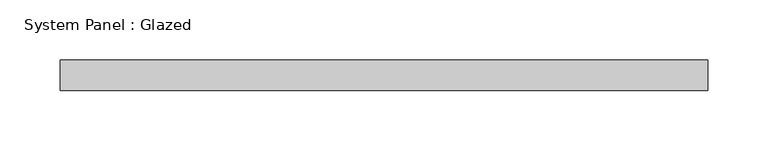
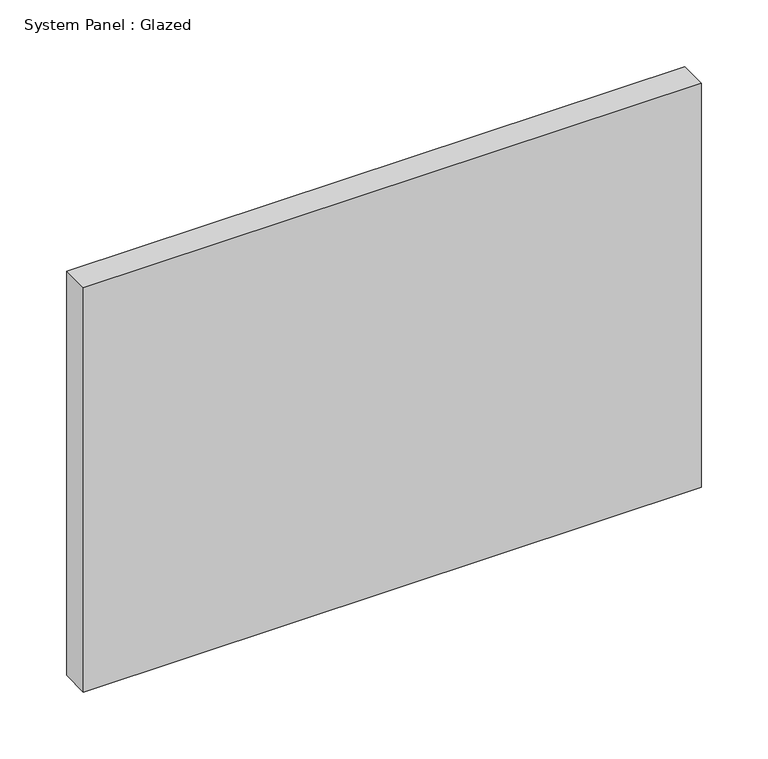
"""IFC4 building model written with IfcOpenShell, lengths in millimetres: plate geometry, System Panel : Glazed."""

from ifc_helpers import new_model, si_unit, origin, origin_with_axes, place, context, project, spatial, polyline, outline, extrude, source, transform, mapped, element, save


def system_panel_glazed_77dbd889(model_context):
    return source(origin(), model_context, "Body", "SweptSolid", [
        extrude(outline(polyline([(267.5, 24.5), (-267.5, 24.5), (-267.5, 49.5), (267.5, 49.5), (267.5, 24.5)])), origin_with_axes(), (0.0, 0.0, 1.0), 369.9403709),
    ])


if __name__ == "__main__":
    model = new_model("IFC4")
    model_context = context("Model", 3, world=origin())
    ifc_project = project(units=[si_unit("LENGTHUNIT", "METRE", prefix="MILLI")], contexts=[model_context])
    site = spatial("IfcSite", under=ifc_project)
    building = spatial("IfcBuilding", under=site)
    placement = place(None, origin())
    system_panel_glazed_shape = system_panel_glazed_77dbd889(model_context)
    element("IfcPlate", 1, ObjectType="System Panel : Glazed", at=placement, inside=building, context=model_context, shape_type="MappedRepresentation", body=[
        mapped(system_panel_glazed_shape, transform((0.0, 0.0, 0.0), x_axis=(1.0, 0.0, 0.0), y_axis=(0.0, 1.0, 0.0), z_axis=(0.0, 0.0, 1.0))),
    ])
    save(model, "model.ifc")
